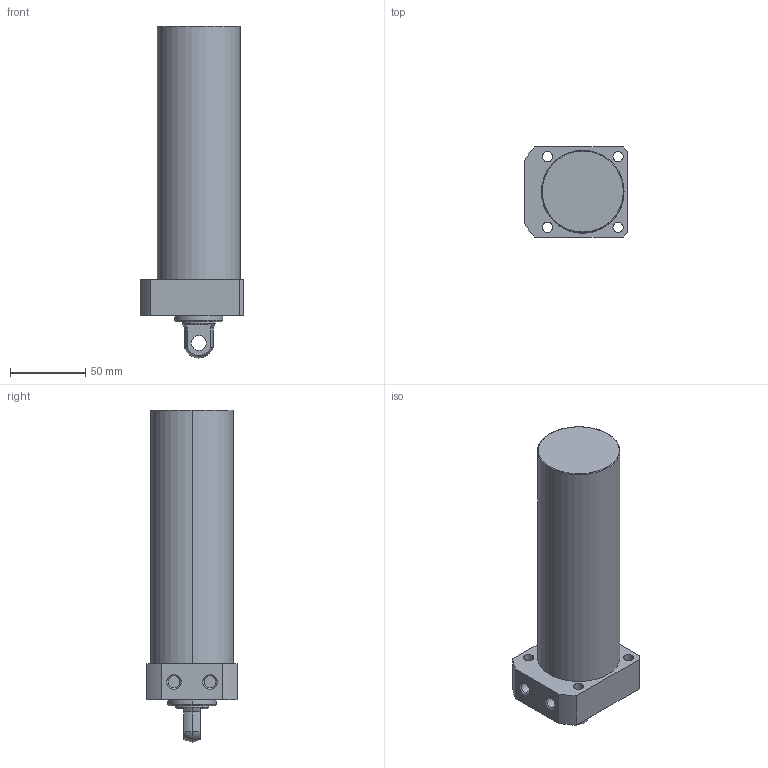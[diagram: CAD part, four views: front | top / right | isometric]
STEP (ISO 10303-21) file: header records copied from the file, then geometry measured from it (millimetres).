
FILE_DESCRIPTION (( 'STEP AP203' ), '1' );
FILE_NAME ('CLLR-055CP-140.STEP', '2019-12-17T12:41:52', ( '' ), ( '' ), 'SwSTEP 2.0', 'SolidWorks 2015', '' );
FILE_SCHEMA (( 'CONFIG_CONTROL_DESIGN' ));
Length unit declared in the file: millimetre
Products named in the file (1): CLLR-055CP-140
Bounding box: 69 x 60 x 221 mm (x, y, z)
Volume: 501039 mm3; surface area: 47419.2 mm2
Topology: 1 solids, 1 shells, 59 faces, 139 edges, 89 vertices
Faces by surface type: cylinder 29, plane 18, cone 8, torus 2, sphere 2
Entity records: 1822 total; most frequent: DIRECTION 331, CARTESIAN_POINT 300, ORIENTED_EDGE 278, EDGE_CURVE 139, AXIS2_PLACEMENT_3D 136, VERTEX_POINT 89, CIRCLE 76, EDGE_LOOP 76
